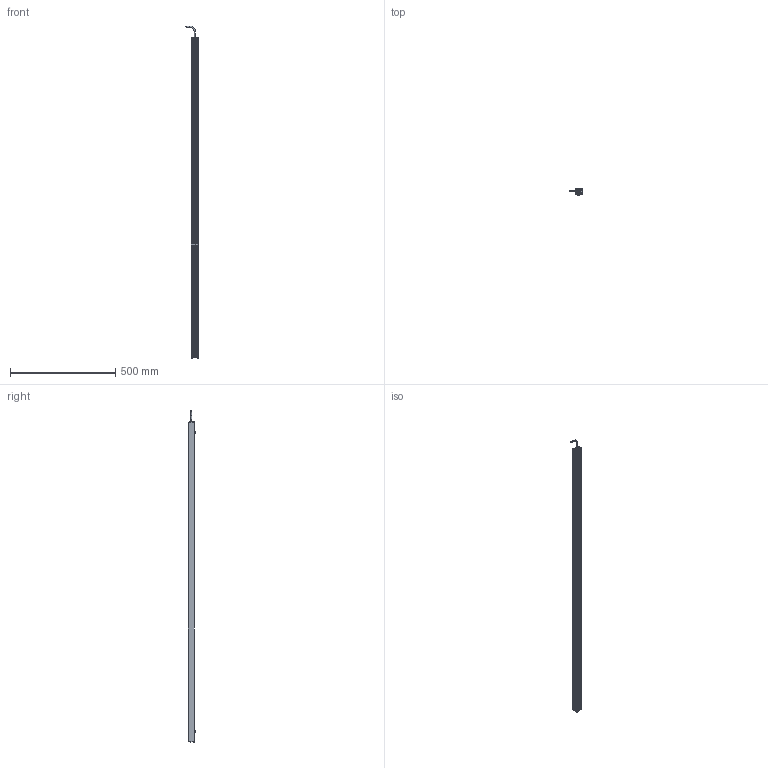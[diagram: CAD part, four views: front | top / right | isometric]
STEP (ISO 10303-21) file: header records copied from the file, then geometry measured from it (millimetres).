
FILE_DESCRIPTION (( 'STEP AP214' ), '1' );
FILE_NAME ('AL150XXXX_AL150348.stp', '2021-04-29T15:41:47', ( '' ), ( '' ), 'SwSTEP 2.0', 'SolidWorks 2018', '' );
FILE_SCHEMA (( 'AUTOMOTIVE_DESIGN' ));
Length unit declared in the file: inch
Products named in the file (12): 150-03-006-XXXX_150-03-006-348; 1157 (no strap); Part2^AL150XXXX; 092408_TRUNCATED; 150-01-005-XXX_150-01-005-348; AL150XXXX_AL150348; 116-02-007; HN-M6_90592A016; CHM6x8_91460A312; 116-02-006; 093145_93701A253; Part1^AL150XXXX
Assembly tree (18 placements, depth 2):
  Part2^AL150XXXX
  AL150XXXX_AL150348
    150-01-005-XXX_150-01-005-348
    116-02-006
    093145_93701A253  x8
    HN-M6_90592A016  x2
    CHM6x8_91460A312  x2
    150-03-006-XXXX_150-03-006-348
    116-02-007
    1157 (no strap)
    092408_TRUNCATED
  Part1^AL150XXXX
Bounding box: 60.68 x 33.84 x 1578.53 mm (x, y, z)
Volume: 471809 mm3; surface area: 498701.2 mm2
Topology: 26 solids, 26 shells, 1306 faces, 3436 edges, 2127 vertices
Faces by surface type: cylinder 805, cone 249, plane 153, torus 59, bspline 32, sphere 8
Entity records: 18285 total; most frequent: CARTESIAN_POINT 6069, ORIENTED_EDGE 2496, DIRECTION 2311, EDGE_CURVE 1248, AXIS2_PLACEMENT_3D 881, VERTEX_POINT 800, LINE 549, VECTOR 549
